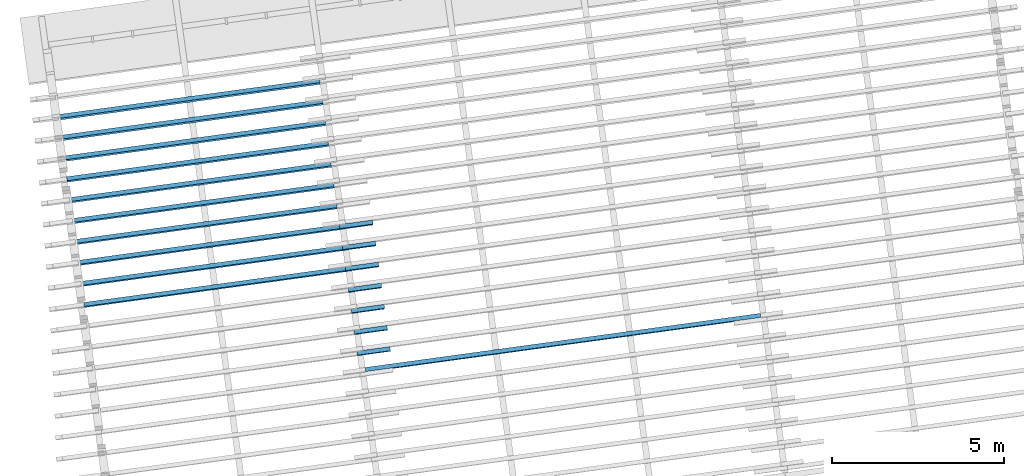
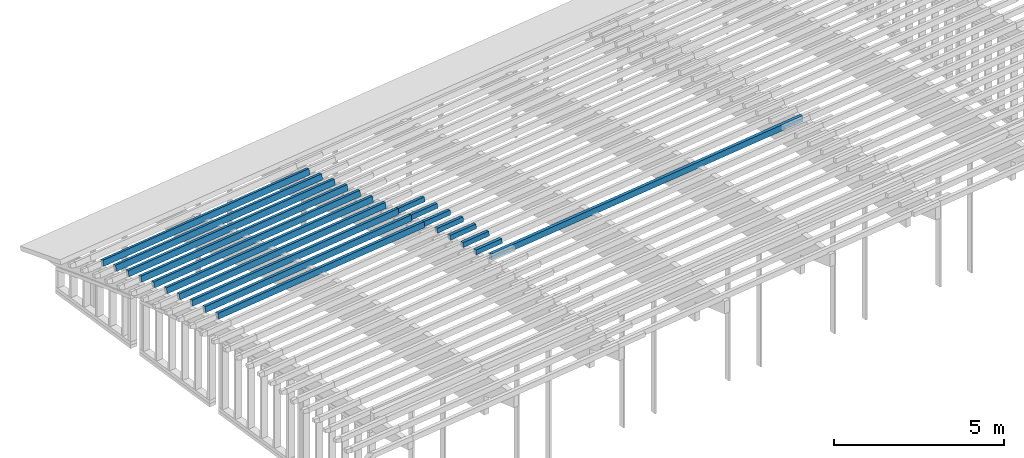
# One storey, part 8 of 18: 18 building element parts, 15 elements without a shape of their own.
"""IFC2X3 building model written with IfcOpenShell, lengths in metres."""

from ifc_helpers import new_model, entity, si_unit, converted_unit, derived_unit, money_unit, direction, frame, origin_with_axes, place, context, subcontext, project, spatial, faceted_brep, material, type_object, element, aggregate, save


model = new_model("IFC2X3")

# Units and contexts
model_context = context("Model", 3, precision=1e-05, world=origin_with_axes(), true_north=direction((0.0, 1.0)))
body_context = subcontext(model_context, "Body", "Model", "MODEL_VIEW")
ifc_project = project(units=[si_unit("LENGTHUNIT", "METRE"), si_unit("AREAUNIT", "SQUARE_METRE"), si_unit("VOLUMEUNIT", "CUBIC_METRE"), converted_unit("PLANEANGLEUNIT", "DEGREE", entity("IfcPlaneAngleMeasure", 0.0174532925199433), si_unit("PLANEANGLEUNIT", "RADIAN"), dimensions=[0, 0, 0, 0, 0, 0, 0]), money_unit("EUR"), converted_unit("TIMEUNIT", "Year", entity("IfcTimeMeasure", 31557600.0), si_unit("TIMEUNIT", "SECOND"), dimensions=[0, 0, 1, 0, 0, 0, 0]), si_unit("MASSUNIT", "GRAM", prefix="KILO"), si_unit("THERMODYNAMICTEMPERATUREUNIT", "DEGREE_CELSIUS"), si_unit("LUMINOUSINTENSITYUNIT", "LUMEN"), si_unit("ENERGYUNIT", "JOULE", prefix="MEGA"), derived_unit("THERMALCONDUCTANCEUNIT", [(si_unit("POWERUNIT", "WATT"), 1), (si_unit("LENGTHUNIT", "METRE"), -1), (si_unit("THERMODYNAMICTEMPERATUREUNIT", "KELVIN"), -1)]), derived_unit("SPECIFICHEATCAPACITYUNIT", [(si_unit("ENERGYUNIT", "JOULE"), 1), (si_unit("MASSUNIT", "GRAM", prefix="KILO"), -1), (si_unit("THERMODYNAMICTEMPERATUREUNIT", "KELVIN"), -1)]), derived_unit("MASSDENSITYUNIT", [(si_unit("MASSUNIT", "GRAM", prefix="KILO"), 1), (si_unit("VOLUMEUNIT", "CUBIC_METRE"), -1)])], contexts=[model_context])

# Site, building, storey
site_placement = place(None, origin_with_axes())
site = spatial("IfcSite", under=ifc_project, at=site_placement, Name="Gelände", CompositionType="ELEMENT")
building_placement = place(site_placement, origin_with_axes())
building = spatial("IfcBuilding", under=site, at=building_placement, Name="Gebäude", CompositionType="ELEMENT")
storey_placement = place(building_placement, frame((0.0, 0.0, 5.5), z_axis=(0.0, 0.0, 1.0), x_axis=(1.0, 0.0, 0.0)))
storey = spatial("IfcBuildingStorey", under=building, at=storey_placement, Name="OG", CompositionType="ELEMENT", Elevation=5.5)

# Beam, building element part
beam_type_1 = type_object("IfcBeamType", Name="Verschiedene Strukturen - 4 Segmente - 120 x 200 x 9849 (970+7659+1030+190)", PredefinedType="NOTDEFINED")
beam_1_placement = place(storey_placement, frame((94.4886111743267, -144.6431283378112, 4.54227047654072), z_axis=(0.0, 0.0, 1.0), x_axis=(-0.1357111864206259, 0.9907484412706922, 0.0)))
beam_1 = element("IfcBeam", 1, at=beam_1_placement, inside=storey, type_object=beam_type_1, Name="Unterzug-031")
ifc_material = material(Name="Bauholz")
building_element_part_1_placement = place(beam_1_placement, origin_with_axes())
building_element_part_1 = element("IfcBuildingElementPart", 2, at=building_element_part_1_placement, material=ifc_material, Name="Bauholz", context=body_context, shape_type="Brep", body=[
    faceted_brep([(0.05957045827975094, 0.0, -0.007166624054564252), (0.05957045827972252, 0.9700000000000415, -0.007166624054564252), (-0.05957045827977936, 0.9700000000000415, 0.007166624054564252), (-0.05957045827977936, 0.0, 0.007166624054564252), (0.04045946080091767, 0.0, -0.1660211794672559), (0.04045946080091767, 0.9700000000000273, -0.1660211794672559), (-0.07868145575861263, 0.9700000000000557, -0.1516879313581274), (-0.07868145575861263, 0.0, -0.1516879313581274)], [[[0, 1, 2, 3]], [[4, 5, 1, 0]], [[2, 1, 5, 6]], [[3, 2, 6, 7]], [[4, 0, 3, 7]], [[7, 6, 5, 4]]]),
])
aggregate(beam_1, [building_element_part_1])

beam_type_2 = type_object("IfcBeamType", Name="Verschiedene Strukturen - 4 Segmente - 120 x 200 x 9793 (970+7659+974+190)", PredefinedType="NOTDEFINED")
beam_2_placement = place(storey_placement, frame((94.40442273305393, -144.0285174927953, 4.46423359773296), z_axis=(0.0, 0.0, 1.0), x_axis=(-0.1357111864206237, 0.9907484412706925, 0.0)))
beam_2 = element("IfcBeam", 3, at=beam_2_placement, inside=storey, type_object=beam_type_2, Name="Unterzug-031")
building_element_part_2_placement = place(beam_2_placement, origin_with_axes())
building_element_part_2 = element("IfcBuildingElementPart", 4, at=building_element_part_2_placement, material=ifc_material, Name="Bauholz", context=body_context, shape_type="Brep", body=[
    faceted_brep([(0.05949214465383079, 0.0, -0.00779004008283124), (0.05949214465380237, 0.9700000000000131, -0.00779004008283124), (-0.05949214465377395, 0.9700000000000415, 0.00779004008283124), (-0.05949214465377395, 0.0, 0.00779004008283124), (0.03871870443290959, 0.0, -0.1664357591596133), (0.03871870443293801, 0.9700000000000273, -0.1664357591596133), (-0.08026558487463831, 0.9700000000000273, -0.1508556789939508), (-0.08026558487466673, 0.0, -0.1508556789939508)], [[[0, 1, 2, 3]], [[4, 5, 1, 0]], [[2, 1, 5, 6]], [[3, 2, 6, 7]], [[4, 0, 3, 7]], [[7, 6, 5, 4]]]),
])
aggregate(beam_2, [building_element_part_2])

beam_type_3 = type_object("IfcBeamType", Name="Verschiedene Strukturen - 4 Segmente - 120 x 200 x 9740 (970+7659+921+190)", PredefinedType="NOTDEFINED")
beam_3_placement = place(storey_placement, frame((94.3203410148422, -143.4146857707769, 4.380047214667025), z_axis=(0.0, 0.0, 1.0), x_axis=(-0.1357111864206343, 0.9907484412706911, 0.0)))
beam_3 = element("IfcBeam", 5, at=beam_3_placement, inside=storey, type_object=beam_type_3, Name="Unterzug-031")
building_element_part_3_placement = place(beam_3_placement, origin_with_axes())
building_element_part_3 = element("IfcBuildingElementPart", 6, at=building_element_part_3_placement, material=ifc_material, Name="Bauholz", context=body_context, shape_type="Brep", body=[
    faceted_brep([(0.05941462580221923, 0.0, -0.008360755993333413), (0.05941462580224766, 0.9699999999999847, -0.008360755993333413), (-0.05941462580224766, 0.9699999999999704, 0.008360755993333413), (-0.05941462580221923, 0.0, 0.008360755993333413), (0.03711927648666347, 0.0, -0.166799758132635), (0.03711927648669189, 0.9699999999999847, -0.166799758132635), (-0.081709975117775, 0.9699999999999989, -0.1500782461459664), (-0.08170997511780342, 0.0, -0.1500782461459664)], [[[0, 1, 2, 3]], [[4, 5, 1, 0]], [[2, 1, 5, 6]], [[3, 2, 6, 7]], [[4, 0, 3, 7]], [[7, 6, 5, 4]]]),
])
aggregate(beam_3, [building_element_part_3])

beam_type_4 = type_object("IfcBeamType", Name="Verschiedene Strukturen - 4 Segmente - 120 x 200 x 9690 (970+7659+871+190)", PredefinedType="NOTDEFINED")
beam_4_placement = place(storey_placement, frame((94.23638661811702, -142.8017835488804, 4.289462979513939), z_axis=(0.0, 0.0, 1.0), x_axis=(-0.1357111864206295, 0.9907484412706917, 0.0)))
beam_4 = element("IfcBeam", 7, at=beam_4_placement, inside=storey, type_object=beam_type_4, Name="Unterzug-031")
building_element_part_4_placement = place(beam_4_placement, origin_with_axes())
building_element_part_4 = element("IfcBuildingElementPart", 8, at=building_element_part_4_placement, material=ifc_material, Name="Bauholz", context=body_context, shape_type="Brep", body=[
    faceted_brep([(0.0593343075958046, 0.0, -0.008912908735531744), (0.0593343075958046, 0.9699999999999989, -0.008912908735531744), (-0.0593343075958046, 0.9699999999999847, 0.008912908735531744), (-0.0593343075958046, 0.0, 0.008912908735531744), (0.035566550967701, 0.0, -0.1671377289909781), (0.03556655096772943, 0.9699999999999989, -0.1671377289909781), (-0.08310206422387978, 0.9699999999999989, -0.1493119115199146), (-0.08310206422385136, 0.0, -0.1493119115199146)], [[[0, 1, 2, 3]], [[4, 5, 1, 0]], [[2, 1, 5, 6]], [[3, 2, 6, 7]], [[4, 0, 3, 7]], [[7, 6, 5, 4]]]),
])
aggregate(beam_4, [building_element_part_4])

# Beam, building element parts
beam_type_5 = type_object("IfcBeamType", Name="Verschiedene Strukturen - 4 Segmente - 120 x 200 x 9644 (970+7659+825+190)", PredefinedType="NOTDEFINED")
beam_5_placement = place(storey_placement, frame((94.15255742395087, -142.1897953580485, 4.19267556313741), z_axis=(0.0, 0.0, 1.0), x_axis=(-0.1357111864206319, 0.9907484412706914, 0.0)))
beam_5 = element("IfcBeam", 9, at=beam_5_placement, inside=storey, type_object=beam_type_5, Name="Unterzug-031")
building_element_part_5_placement = place(beam_5_placement, origin_with_axes())
building_element_part_5 = element("IfcBuildingElementPart", 10, at=building_element_part_5_placement, material=ifc_material, Name="Bauholz", context=body_context, shape_type="Brep", body=[
    faceted_brep([(0.0592331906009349, 8.629122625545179, -0.009561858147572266), (0.05923345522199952, 4.852805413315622, -0.00956185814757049), (0.03373450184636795, 4.852805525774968, -0.1675195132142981), (0.03373448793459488, 4.732805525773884, -0.1675195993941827), (0.05923292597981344, 4.732805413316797, -0.00956185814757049), (0.05923319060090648, 0.9699999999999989, -0.009561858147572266), (0.02736033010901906, 0.9699999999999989, -0.207005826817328), (0.02736033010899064, 8.629122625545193, -0.207005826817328), (-0.0592331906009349, 8.629122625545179, 0.009561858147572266), (-0.05923292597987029, 4.852803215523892, 0.009561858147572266), (-0.05923345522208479, 4.732803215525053, 0.009561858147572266), (-0.05923319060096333, 0.9700000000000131, 0.009561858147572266), (0.03297535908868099, 4.85280552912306, -0.1673925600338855), (0.03297482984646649, 4.732805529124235, -0.1673925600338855), (-0.09110605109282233, 0.9699999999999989, -0.1878821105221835), (-0.09110605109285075, 8.629122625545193, -0.1878821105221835), (-0.08473173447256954, 4.732803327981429, -0.1483948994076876), (-0.08473172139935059, 4.852803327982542, -0.1483948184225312), (-0.0844619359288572, 4.85280332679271, -0.1484371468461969), (-0.08446246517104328, 4.732803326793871, -0.1484371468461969)], [[[0, 1, 2, 3, 4, 5, 6, 7]], [[5, 4, 1, 0, 8, 9, 10, 11]], [[12, 2, 1]], [[13, 3, 2, 12]], [[13, 4, 3]], [[11, 14, 6, 5]], [[7, 6, 14, 15]], [[7, 15, 8, 0]], [[12, 1, 4, 13]], [[14, 11, 10, 16, 17, 9, 8, 15]], [[9, 18, 19, 10]], [[19, 16, 10]], [[17, 16, 19, 18]], [[18, 9, 17]]]),
])
building_element_part_6_placement = place(beam_5_placement, origin_with_axes())
building_element_part_6 = element("IfcBuildingElementPart", 11, at=building_element_part_6_placement, material=ifc_material, Name="Bauholz", context=body_context, shape_type="Brep", body=[
    faceted_brep([(0.0592331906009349, 0.0, -0.009561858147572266), (0.05923319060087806, 0.9699999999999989, -0.009561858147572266), (-0.05923319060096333, 0.9700000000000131, 0.009561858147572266), (-0.05923319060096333, 0.0, 0.009561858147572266), (0.03373490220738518, 0.0, -0.1675170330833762), (0.03373490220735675, 0.9699999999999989, -0.1675170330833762), (-0.08473147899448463, 0.9699999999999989, -0.1483933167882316), (-0.08473147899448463, 0.0, -0.1483933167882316)], [[[0, 1, 2, 3]], [[4, 5, 1, 0]], [[2, 1, 5, 6]], [[3, 2, 6, 7]], [[4, 0, 3, 7]], [[7, 6, 5, 4]]]),
])
aggregate(beam_5, [building_element_part_5, building_element_part_6])

beam_type_6 = type_object("IfcBeamType", Name="Verschiedene Strukturen - 4 Segmente - 120 x 200 x 9601 (970+7659+782+190)", PredefinedType="NOTDEFINED")
beam_6_placement = place(storey_placement, frame((94.06886552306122, -141.5788094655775, 4.089610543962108), z_axis=(0.0, 0.0, 1.0), x_axis=(-0.1357111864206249, 0.9907484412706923, 0.0)))
beam_6 = element("IfcBeam", 12, at=beam_6_placement, inside=storey, type_object=beam_type_6, Name="Unterzug-031")
building_element_part_7_placement = place(beam_6_placement, origin_with_axes())
building_element_part_7 = element("IfcBuildingElementPart", 13, at=building_element_part_7_placement, material=ifc_material, Name="Bauholz", context=body_context, shape_type="Brep", body=[
    faceted_brep([(0.05913232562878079, 8.629122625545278, -0.01016700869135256), (0.05913259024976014, 4.852805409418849, -0.01016700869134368), (0.03201988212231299, 4.852805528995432, -0.1678556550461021), (0.03201986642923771, 4.732805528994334, -0.1678557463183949), (0.05913206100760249, 4.73280540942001, -0.01016700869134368), (0.05913232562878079, 0.9699999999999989, -0.01016700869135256), (0.02524229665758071, 0.9699999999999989, -0.2072747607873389), (0.02524229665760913, 8.629122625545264, -0.2072747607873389), (-0.05913232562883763, 8.629122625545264, 0.01016700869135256), (-0.0591320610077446, 4.852803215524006, 0.01016700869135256), (-0.05913259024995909, 4.732803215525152, 0.01016700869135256), (-0.05913232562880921, 0.9700000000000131, 0.01016700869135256), (0.03126714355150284, 4.852805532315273, -0.167721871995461), (0.03126661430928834, 4.732805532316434, -0.167721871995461), (-0.09302235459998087, 0.9699999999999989, -0.1869407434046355), (-0.09302235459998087, 8.62912262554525, -0.1869407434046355), (-0.08624463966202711, 4.732803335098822, -0.1475208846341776), (-0.08624462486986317, 4.852803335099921, -0.1475207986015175), (-0.08595098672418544, 4.852803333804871, -0.1475699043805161), (-0.08595151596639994, 4.732803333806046, -0.1475699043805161)], [[[0, 1, 2, 3, 4, 5, 6, 7]], [[5, 4, 1, 0, 8, 9, 10, 11]], [[12, 2, 1]], [[13, 3, 2, 12]], [[13, 4, 3]], [[11, 14, 6, 5]], [[7, 6, 14, 15]], [[7, 15, 8, 0]], [[12, 1, 4, 13]], [[14, 11, 10, 16, 17, 9, 8, 15]], [[9, 18, 19, 10]], [[19, 16, 10]], [[17, 16, 19, 18]], [[18, 9, 17]]]),
])
building_element_part_8_placement = place(beam_6_placement, origin_with_axes())
building_element_part_8 = element("IfcBuildingElementPart", 14, at=building_element_part_8_placement, material=ifc_material, Name="Bauholz", context=body_context, shape_type="Brep", body=[
    faceted_brep([(0.05913232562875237, 0.0, -0.01016700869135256), (0.05913232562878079, 0.9699999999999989, -0.01016700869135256), (-0.05913232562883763, 0.9699999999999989, 0.01016700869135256), (-0.05913232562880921, 0.0, 0.01016700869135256), (0.03202030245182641, 0.0, -0.1678532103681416), (0.03202030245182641, 0.9699999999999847, -0.1678532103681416), (-0.08624434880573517, 0.9699999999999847, -0.1475191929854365), (-0.0862443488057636, 0.0, -0.1475191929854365)], [[[0, 1, 2, 3]], [[4, 5, 1, 0]], [[2, 1, 5, 6]], [[3, 2, 6, 7]], [[4, 0, 3, 7]], [[7, 6, 5, 4]]]),
])
aggregate(beam_6, [building_element_part_7, building_element_part_8])

beam_type_7 = type_object("IfcBeamType", Name="Verschiedene Strukturen - 4 Segmente - 120 x 200 x 9561 (970+7659+742+190)", PredefinedType="NOTDEFINED")
beam_7_placement = place(storey_placement, frame((93.98532227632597, -140.9689088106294, 3.980241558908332), z_axis=(0.0, 0.0, 1.0), x_axis=(-0.1357111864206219, 0.9907484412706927, 0.0)))
beam_7 = element("IfcBeam", 15, at=beam_7_placement, inside=storey, type_object=beam_type_7, Name="Unterzug-031")
building_element_part_9_placement = place(beam_7_placement, origin_with_axes())
building_element_part_9 = element("IfcBuildingElementPart", 16, at=building_element_part_9_placement, material=ifc_material, Name="Bauholz", context=body_context, shape_type="Brep", body=[
    faceted_brep([(0.05902139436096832, 0.0, -0.01079235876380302), (0.05902139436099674, 0.9700000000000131, -0.01079235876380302), (-0.05902139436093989, 0.9700000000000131, 0.01079235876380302), (-0.05902139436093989, 0.0, 0.01079235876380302), (0.03024177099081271, 0.0, -0.1681827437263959), (0.03024177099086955, 0.9700000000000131, -0.1681827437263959), (-0.0878010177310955, 0.9700000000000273, -0.146598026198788), (-0.0878010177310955, 0.0, -0.146598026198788)], [[[0, 1, 2, 3]], [[4, 5, 1, 0]], [[2, 1, 5, 6]], [[3, 2, 6, 7]], [[4, 0, 3, 7]], [[7, 6, 5, 4]]]),
])
building_element_part_10_placement = place(beam_7_placement, origin_with_axes())
building_element_part_10 = element("IfcBuildingElementPart", 17, at=building_element_part_10_placement, material=ifc_material, Name="Bauholz", context=body_context, shape_type="Brep", body=[
    faceted_brep([(0.05902139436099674, 8.629122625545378, -0.01079235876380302), (0.05902165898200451, 4.852805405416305, -0.01079235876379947), (0.03024141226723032, 4.852805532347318, -0.1681847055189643), (0.03024139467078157, 4.732805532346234, -0.1681848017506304), (0.05902112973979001, 4.732805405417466, -0.01079235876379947), (0.05902139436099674, 0.9700000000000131, -0.01079235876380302), (0.02304686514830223, 0.9700000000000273, -0.2075303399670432), (0.02304686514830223, 8.629122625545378, -0.2075303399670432), (-0.05902139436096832, 8.629122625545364, 0.01079235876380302), (-0.0590211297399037, 4.852803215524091, 0.01079235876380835), (-0.0590216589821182, 4.732803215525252, 0.01079235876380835), (-0.05902139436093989, 0.9700000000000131, 0.01079235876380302), (0.02957910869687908, 4.852805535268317, -0.1680601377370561), (0.029578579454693, 4.732805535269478, -0.1680601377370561), (-0.09499592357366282, 0.9700000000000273, -0.1859456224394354), (-0.09499592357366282, 8.629122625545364, -0.1859456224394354), (-0.08780138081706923, 4.732803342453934, -0.1466000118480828), (-0.08780136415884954, 4.852803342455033, -0.1465999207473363), (-0.08751582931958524, 4.852803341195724, -0.1466506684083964), (-0.08751635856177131, 4.732803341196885, -0.1466506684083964)], [[[0, 1, 2, 3, 4, 5, 6, 7]], [[5, 4, 1, 0, 8, 9, 10, 11]], [[12, 2, 1]], [[13, 3, 2, 12]], [[13, 4, 3]], [[11, 14, 6, 5]], [[7, 6, 14, 15]], [[7, 15, 8, 0]], [[12, 1, 4, 13]], [[14, 11, 10, 16, 17, 9, 8, 15]], [[9, 18, 19, 10]], [[19, 16, 10]], [[17, 16, 19, 18]], [[18, 9, 17]]]),
])
aggregate(beam_7, [building_element_part_9, building_element_part_10])

# Beam, building element part
beam_type_8 = type_object("IfcBeamType", Name="Verschiedene Strukturen - 4 Segmente - 120 x 200 x 9525 (970+7659+706+190)", PredefinedType="NOTDEFINED")
beam_8_placement = place(storey_placement, frame((93.90193320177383, -140.360133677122, 3.864643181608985), z_axis=(0.0, 0.0, 1.0), x_axis=(-0.1357111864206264, 0.9907484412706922, 0.0)))
beam_8 = element("IfcBeam", 18, at=beam_8_placement, inside=storey, type_object=beam_type_8, Name="Unterzug-031")
building_element_part_11_placement = place(beam_8_placement, origin_with_axes())
building_element_part_11 = element("IfcBuildingElementPart", 19, at=building_element_part_11_placement, material=ifc_material, Name="Bauholz", context=body_context, shape_type="Brep", body=[
    faceted_brep([(0.05890385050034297, 8.629122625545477, -0.01141649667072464), (0.05890411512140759, 4.852805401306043, -0.01141649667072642), (0.02845960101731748, 4.852805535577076, -0.1684947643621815), (0.02845958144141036, 4.732805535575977, -0.168494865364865), (0.05890358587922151, 4.732805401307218, -0.01141649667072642), (0.05890385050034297, 0.9699999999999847, -0.01141649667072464), (0.02084886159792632, 0.9699999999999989, -0.2077626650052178), (0.02084886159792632, 8.629122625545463, -0.2077626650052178), (-0.05890385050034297, 8.629122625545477, 0.01141649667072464), (-0.05890358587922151, 4.852803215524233, 0.01141649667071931), (-0.05890385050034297, 4.792803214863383, 0.01141649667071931), (-0.05890385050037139, 0.9699999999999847, 0.01141649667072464), (0.02793298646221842, 4.852805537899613, -0.168390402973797), (0.02793245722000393, 4.732805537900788, -0.168390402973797), (-0.09695883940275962, 0.9699999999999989, -0.1849296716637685), (-0.09695883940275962, 8.629122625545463, -0.1849296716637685), (-0.05901647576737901, 4.732803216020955, 0.01083540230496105), (-0.08927955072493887, 4.732803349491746, -0.1456758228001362), (-0.08927902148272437, 4.852803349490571, -0.1456758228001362)], [[[0, 1, 2, 3, 4, 5, 6, 7]], [[5, 4, 1, 0, 8, 9, 10, 11]], [[12, 2, 1]], [[13, 3, 2, 12]], [[13, 4, 3]], [[14, 6, 5, 11]], [[15, 7, 6, 14]], [[7, 15, 8, 0]], [[12, 1, 4, 13]], [[16, 17, 18, 9, 8, 15, 14, 11, 10]], [[18, 17, 16, 10, 9]]]),
])
aggregate(beam_8, [building_element_part_11])

beam_type_9 = type_object("IfcBeamType", Name="Verschiedene Strukturen - 4 Segmente - 120 x 200 x 9492 (970+7659+673+190)", PredefinedType="NOTDEFINED")
beam_9_placement = place(storey_placement, frame((93.81870340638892, -139.7525213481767, 3.742971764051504), z_axis=(0.0, 0.0, 1.0), x_axis=(-0.1357111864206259, 0.9907484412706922, 0.0)))
beam_9 = element("IfcBeam", 20, at=beam_9_placement, inside=storey, type_object=beam_type_9, Name="Unterzug-031")
building_element_part_12_placement = place(beam_9_placement, origin_with_axes())
building_element_part_12 = element("IfcBuildingElementPart", 21, at=building_element_part_12_placement, material=ifc_material, Name="Bauholz", context=body_context, shape_type="Brep", body=[
    faceted_brep([(0.05877971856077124, 8.629122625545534, -0.01203929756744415), (0.05877998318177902, 4.852805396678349, -0.01203929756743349), (0.02667467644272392, 4.852805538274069, -0.168786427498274), (0.02667465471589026, 4.732805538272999, -0.1687865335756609), (0.05877945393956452, 4.732805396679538, -0.01203929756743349), (0.05877971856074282, 0.9700000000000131, -0.01203929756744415), (0.01864872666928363, 0.9700000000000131, -0.2079716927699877), (0.01864872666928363, 8.629122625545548, -0.2079716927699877), (-0.05877971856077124, 8.629122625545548, 0.01203929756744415), (-0.05877945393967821, 4.852803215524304, 0.01203929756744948), (-0.0587799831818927, 4.732803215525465, 0.01203929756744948), (-0.05877971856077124, 0.9700000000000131, 0.01203929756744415), (0.02617685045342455, 4.852805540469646, -0.1686823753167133), (0.02617632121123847, 4.732805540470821, -0.1686823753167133), (-0.09891071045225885, 0.9699999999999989, -0.1838930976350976), (-0.09891071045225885, 8.629122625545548, -0.1838930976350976), (-0.09088517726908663, 4.732803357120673, -0.1447098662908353), (-0.09088515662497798, 4.852803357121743, -0.1447097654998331), (-0.09068171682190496, 4.852803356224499, -0.144750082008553), (-0.09068224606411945, 4.732803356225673, -0.144750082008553)], [[[0, 1, 2, 3, 4, 5, 6, 7]], [[5, 4, 1, 0, 8, 9, 10, 11]], [[12, 2, 1]], [[13, 3, 2, 12]], [[13, 4, 3]], [[11, 14, 6, 5]], [[7, 6, 14, 15]], [[7, 15, 8, 0]], [[12, 1, 4, 13]], [[14, 11, 10, 16, 17, 9, 8, 15]], [[9, 18, 19, 10]], [[19, 16, 10]], [[17, 16, 19, 18]], [[18, 9, 17]]]),
])
aggregate(beam_9, [building_element_part_12])

beam_type_10 = type_object("IfcBeamType", Name="Verschiedene Strukturen - 4 Segmente - 120 x 200 x 9437 (970+7659+618+190)", PredefinedType="NOTDEFINED")
beam_10_placement = place(storey_placement, frame((93.65277518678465, -138.5411759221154, 3.480744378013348), z_axis=(0.0, 0.0, 1.0), x_axis=(-0.1357111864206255, 0.9907484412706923, 0.0)))
beam_10 = element("IfcBeam", 22, at=beam_10_placement, inside=storey, type_object=beam_type_10, Name="Unterzug-031")
building_element_part_13_placement = place(beam_10_placement, origin_with_axes())
building_element_part_13 = element("IfcBuildingElementPart", 23, at=building_element_part_13_placement, material=ifc_material, Name="Bauholz", context=body_context, shape_type="Brep", body=[
    faceted_brep([(0.05851170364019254, 8.629122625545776, -0.01328083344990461), (0.05851196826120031, 4.852805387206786, -0.01328083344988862), (0.02309603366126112, 4.852805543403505, -0.1693125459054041), (0.02309600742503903, 4.732805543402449, -0.1693126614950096), (0.05851143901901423, 4.732805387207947, -0.01328083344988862), (0.05851170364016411, 0.9699999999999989, -0.01328083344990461), (0.01424225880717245, 0.9700000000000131, -0.2083198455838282), (0.01424225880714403, 8.629122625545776, -0.2083198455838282), (-0.05851170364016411, 8.629122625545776, 0.01328083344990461), (-0.05851143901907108, 4.852803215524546, 0.01328083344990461), (-0.05851196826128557, 4.732803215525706, 0.01328083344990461), (-0.05851170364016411, 0.9700000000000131, 0.01328083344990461), (0.02280931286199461, 4.852805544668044, -0.1692466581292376), (0.02280878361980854, 4.732805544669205, -0.1692466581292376), (-0.1027811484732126, 0.9700000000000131, -0.1817581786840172), (-0.1027811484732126, 8.629122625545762, -0.1817581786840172), (-0.09392822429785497, 4.732803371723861, -0.1427546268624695), (-0.09392819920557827, 4.852803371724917, -0.1427545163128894), (-0.09357776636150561, 4.852803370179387, -0.1428313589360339), (-0.09357829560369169, 4.732803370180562, -0.1428313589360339)], [[[0, 1, 2, 3, 4, 5, 6, 7]], [[5, 4, 1, 0, 8, 9, 10, 11]], [[12, 2, 1]], [[13, 3, 2, 12]], [[13, 4, 3]], [[11, 14, 6, 5]], [[7, 6, 14, 15]], [[7, 15, 8, 0]], [[12, 1, 4, 13]], [[14, 11, 10, 16, 17, 9, 8, 15]], [[9, 18, 19, 10]], [[19, 16, 10]], [[17, 16, 19, 18]], [[18, 9, 17]]]),
])
aggregate(beam_10, [building_element_part_13])

beam_type_11 = type_object("IfcBeamType", Name="Verschiedene Strukturen - 4 Segmente - 120 x 200 x 9414 (970+7659+595+190)", PredefinedType="NOTDEFINED")
beam_11_placement = place(storey_placement, frame((93.57008836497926, -137.9375275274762, 3.340410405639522), z_axis=(0.0, 0.0, 1.0), x_axis=(-0.1357111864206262, 0.9907484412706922, 0.0)))
beam_11 = element("IfcBeam", 24, at=beam_11_placement, inside=storey, type_object=beam_type_11, Name="Unterzug-031")
building_element_part_14_placement = place(beam_11_placement, origin_with_axes())
building_element_part_14 = element("IfcBuildingElementPart", 25, at=building_element_part_14_placement, material=ifc_material, Name="Bauholz", context=body_context, shape_type="Brep", body=[
    faceted_brep([(0.05836784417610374, 8.629105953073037, -0.01389945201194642), (0.05836810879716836, 4.852805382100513, -0.01389945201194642), (0.02130257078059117, 4.852805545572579, -0.1695473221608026), (0.02130254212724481, 4.732805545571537, -0.1695474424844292), (0.05836757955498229, 4.732805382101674, -0.01389945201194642), (0.05836784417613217, 0.9699999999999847, -0.01389945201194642), (0.01203633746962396, 0.9699999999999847, -0.2084589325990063), (0.01203633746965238, 8.629105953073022, -0.2084589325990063), (-0.05836784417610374, 8.629105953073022, 0.01389945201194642), (-0.05836757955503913, 4.852803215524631, 0.01389945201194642), (-0.05836810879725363, 4.732803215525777, 0.01389945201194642), (-0.05836784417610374, 0.9699999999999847, 0.01389945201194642), (0.02110557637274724, 4.852805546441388, -0.1694999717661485), (0.02110504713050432, 4.732805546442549, -0.1694999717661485), (-0.1046993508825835, 0.9699999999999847, -0.1806600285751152), (-0.104699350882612, 8.629105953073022, -0.1806600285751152), (-0.09543422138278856, 4.732803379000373, -0.1417530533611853), (-0.09543419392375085, 4.852803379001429, -0.1417529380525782), (-0.09499536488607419, 4.852803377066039, -0.1418537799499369), (-0.09499589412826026, 4.732803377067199, -0.1418537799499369)], [[[0, 1, 2, 3, 4, 5, 6, 7]], [[5, 4, 1, 0, 8, 9, 10, 11]], [[12, 2, 1]], [[13, 3, 2, 12]], [[13, 4, 3]], [[11, 14, 6, 5]], [[7, 6, 14, 15]], [[7, 15, 8, 0]], [[12, 1, 4, 13]], [[14, 11, 10, 16, 17, 9, 8, 15]], [[9, 18, 19, 10]], [[19, 16, 10]], [[17, 16, 19, 18]], [[18, 9, 17]]]),
])
aggregate(beam_11, [building_element_part_14])

beam_type_12 = type_object("IfcBeamType", Name="Verschiedene Strukturen - 4 Segmente - 120 x 200 x 9394 (970+7659+575+190)", PredefinedType="NOTDEFINED")
beam_12_placement = place(storey_placement, frame((93.48759860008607, -137.3353177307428, 3.193916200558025), z_axis=(0.0, 0.0, 1.0), x_axis=(-0.1357111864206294, 0.9907484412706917, 0.0)))
beam_12 = element("IfcBeam", 26, at=beam_12_placement, inside=storey, type_object=beam_type_12, Name="Unterzug-031")
building_element_part_15_placement = place(beam_12_placement, origin_with_axes())
building_element_part_15 = element("IfcBuildingElementPart", 27, at=building_element_part_15_placement, material=ifc_material, Name="Bauholz", context=body_context, shape_type="Brep", body=[
    faceted_brep([(0.05821747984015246, 8.629105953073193, -0.01451637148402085), (0.0582177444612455, 4.852805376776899, -0.01451637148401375), (0.01950712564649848, 4.852805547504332, -0.1697631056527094), (0.01950709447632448, 4.732805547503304, -0.1697632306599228), (0.058217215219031, 4.73280537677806, -0.01451637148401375), (0.05821747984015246, 0.9700000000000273, -0.01451637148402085), (0.009829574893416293, 0.9700000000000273, -0.2085746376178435), (0.009829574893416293, 8.629105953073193, -0.2085746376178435), (-0.05821747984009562, 8.629105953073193, 0.01451637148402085), (-0.05821721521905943, 4.852803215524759, 0.01451637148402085), (-0.05821747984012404, 4.792803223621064, 0.01451637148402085), (-0.05821747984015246, 0.9700000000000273, 0.01451637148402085), (0.01918661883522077, 4.8528055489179, -0.1696826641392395), (0.01918608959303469, 4.73280554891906, -0.1696826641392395), (-0.1066053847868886, 0.9700000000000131, -0.1795418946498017), (-0.1066053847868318, 8.629105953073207, -0.1795418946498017), (-0.05834445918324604, 4.732803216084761, 0.01400712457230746), (-0.09685333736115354, 4.73280338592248, -0.1407541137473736), (-0.09685280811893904, 4.85280338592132, -0.1407541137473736)], [[[0, 1, 2, 3, 4, 5, 6, 7]], [[5, 4, 1, 0, 8, 9, 10, 11]], [[12, 2, 1]], [[13, 3, 2, 12]], [[13, 4, 3]], [[14, 6, 5, 11]], [[15, 7, 6, 14]], [[7, 15, 8, 0]], [[12, 1, 4, 13]], [[16, 17, 18, 9, 8, 15, 14, 11, 10]], [[18, 17, 16, 10, 9]]]),
])
aggregate(beam_12, [building_element_part_15])

beam_type_13 = type_object("IfcBeamType", Name="Verschiedene Strukturen - 4 Segmente - 120 x 200 x 9378 (970+7659+559+190)", PredefinedType="NOTDEFINED")
beam_13_placement = place(storey_placement, frame((93.40531435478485, -136.7346083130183, 3.04127648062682), z_axis=(0.0, 0.0, 1.0), x_axis=(-0.1357111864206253, 0.9907484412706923, 0.0)))
beam_13 = element("IfcBeam", 28, at=beam_13_placement, inside=storey, type_object=beam_type_13, Name="Unterzug-031")
building_element_part_16_placement = place(beam_13_placement, origin_with_axes())
building_element_part_16 = element("IfcBuildingElementPart", 29, at=building_element_part_16_placement, material=ifc_material, Name="Bauholz", context=body_context, shape_type="Brep", body=[
    faceted_brep([(0.05806055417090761, 8.629105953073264, -0.01513182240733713), (0.05805849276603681, 4.8528053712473, -0.01514071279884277), (0.0177067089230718, 4.852805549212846, -0.1699688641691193), (0.0177066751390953, 4.732805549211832, -0.169968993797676), (0.05805796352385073, 4.73280537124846, -0.01514071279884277), (0.05806055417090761, 0.9699999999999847, -0.01513182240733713), (0.007621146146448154, 0.9699999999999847, -0.2086670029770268), (0.007621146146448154, 8.629105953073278, -0.2086670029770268), (-0.05806055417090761, 8.629105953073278, 0.01513182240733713), (-0.05806028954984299, 4.852803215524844, 0.01513182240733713), (-0.05806055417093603, 4.792803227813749, 0.01513182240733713), (-0.05806055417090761, 0.9699999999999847, 0.01513182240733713), (0.01747848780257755, 4.852805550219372, -0.1699091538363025), (0.01747795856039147, 4.732805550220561, -0.1699091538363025), (-0.1084999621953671, 0.9699999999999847, -0.1784033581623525), (-0.1084999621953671, 8.629105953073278, -0.1784033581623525), (-0.05826208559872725, 4.732803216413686, 0.01435854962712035), (-0.09836425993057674, 4.73280339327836, -0.1397151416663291), (-0.09836373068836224, 4.852803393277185, -0.1397151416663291)], [[[0, 1, 2, 3, 4, 5, 6, 7]], [[5, 4, 1, 0, 8, 9, 10, 11]], [[12, 2, 1]], [[13, 3, 2, 12]], [[13, 4, 3]], [[14, 6, 5, 11]], [[15, 7, 6, 14]], [[7, 15, 8, 0]], [[12, 1, 4, 13]], [[16, 17, 18, 9, 8, 15, 14, 11, 10]], [[18, 17, 16, 10, 9]]]),
])
aggregate(beam_13, [building_element_part_16])

beam_type_14 = type_object("IfcBeamType", Name="Verschiedene Strukturen - 4 Segmente - 120 x 200 x 9463 (970+7659+644+190)", PredefinedType="NOTDEFINED")
beam_14_placement = place(storey_placement, frame((93.73565060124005, -139.1462011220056, 3.614903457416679), z_axis=(0.0, 0.0, 1.0), x_axis=(-0.1357111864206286, 0.9907484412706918, 0.0)))
beam_14 = element("IfcBeam", 30, at=beam_14_placement, inside=storey, type_object=beam_type_14, Name="Unterzug-031")
building_element_part_17_placement = place(beam_14_placement, origin_with_axes())
building_element_part_17 = element("IfcBuildingElementPart", 31, at=building_element_part_17_placement, material=ifc_material, Name="Bauholz", context=body_context, shape_type="Brep", body=[
    faceted_brep([(0.05864897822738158, 8.629122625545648, -0.0126608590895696), (0.05864924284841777, 4.852805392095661, -0.0126608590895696), (0.02488652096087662, 4.852805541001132, -0.1690589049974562), (0.02488649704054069, 4.73280554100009, -0.1690590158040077), (0.05864871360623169, 4.732805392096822, -0.0126608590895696), (0.05864897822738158, 0.9700000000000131, -0.0126608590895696), (0.01644611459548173, 0.9700000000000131, -0.2081574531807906), (0.01644611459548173, 8.629122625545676, -0.2081574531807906), (-0.05864897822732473, 8.629122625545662, 0.0126608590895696), (-0.05864871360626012, 4.852803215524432, 0.0126608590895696), (-0.05864924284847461, 4.732803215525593, 0.0126608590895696), (-0.05864897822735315, 0.9700000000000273, 0.0126608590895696), (0.02451012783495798, 4.852805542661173, -0.1689763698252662), (0.02450959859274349, 4.732805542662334, -0.1689763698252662), (-0.100851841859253, 0.9700000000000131, -0.1828357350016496), (-0.100851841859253, 8.629122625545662, -0.1828357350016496), (-0.09241200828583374, 4.732803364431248, -0.1437398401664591), (-0.09241198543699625, 4.852803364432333, -0.1437397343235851), (-0.09218100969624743, 4.852803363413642, -0.1437880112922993), (-0.09218153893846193, 4.732803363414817, -0.1437880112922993)], [[[0, 1, 2, 3, 4, 5, 6, 7]], [[5, 4, 1, 0, 8, 9, 10, 11]], [[12, 2, 1]], [[13, 3, 2, 12]], [[13, 4, 3]], [[11, 14, 6, 5]], [[7, 6, 14, 15]], [[7, 15, 8, 0]], [[12, 1, 4, 13]], [[14, 11, 10, 16, 17, 9, 8, 15]], [[9, 18, 19, 10]], [[19, 16, 10]], [[17, 16, 19, 18]], [[18, 9, 17]]]),
])
aggregate(beam_14, [building_element_part_17])

beam_type_15 = type_object("IfcBeamType", Name="Verschiedene Strukturen - 3 Segmente - 120 x 200 x 12890 (660+11570+660)", PredefinedType="NOTDEFINED")
beam_15_placement = place(storey_placement, frame((93.11820253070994, -145.3373725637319, 4.600733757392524), z_axis=(0.0, 0.0, 1.0), x_axis=(0.1357111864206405, -0.9907484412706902, 0.0)))
beam_15 = element("IfcBeam", 32, at=beam_15_placement, inside=storey, type_object=beam_type_15, Name="Unterzug-031")
building_element_part_18_placement = place(beam_15_placement, origin_with_axes())
building_element_part_18 = element("IfcBuildingElementPart", 33, at=building_element_part_18_placement, material=ifc_material, Name="Bauholz", context=body_context, shape_type="Brep", body=[
    faceted_brep([(-0.05962490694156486, 12.22957971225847, -0.006698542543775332), (0.05961206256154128, 12.22957971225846, 0.006697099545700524), (0.07716127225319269, 12.22957971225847, -0.1522616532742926), (0.07747929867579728, 12.22957971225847, -0.1522265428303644), (0.08195338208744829, 12.22957971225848, -0.192051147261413), (-0.03729643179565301, 12.22957971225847, -0.2054482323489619), (0.05962490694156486, 11.43763277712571, 0.006698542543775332), (0.05961206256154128, 11.43763277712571, 0.006697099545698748), (-0.05962490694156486, 0.6599999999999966, -0.006698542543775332), (0.05961206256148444, 0.6599999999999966, 0.006697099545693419), (0.05961206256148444, 1.45194693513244, 0.006697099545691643), (0.05962490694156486, 1.45194693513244, 0.006698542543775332), (0.07716127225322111, 11.43763277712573, -0.1522616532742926), (0.07747929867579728, 11.43763277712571, -0.1522265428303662), (0.07747929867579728, 1.45194693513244, -0.1522265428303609), (0.07747929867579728, 0.6599999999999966, -0.1522265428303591), (0.08195338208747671, 0.6599999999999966, -0.192051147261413), (-0.03729643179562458, 0.6600000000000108, -0.2054482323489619), (0.07716127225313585, 0.6600000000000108, -0.1522616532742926), (0.07716127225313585, 1.45194693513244, -0.1522616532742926)], [[[0, 1, 2, 3, 4, 5]], [[6, 7, 1, 0, 8, 9, 10, 11]], [[12, 2, 1, 7]], [[12, 13, 3, 2]], [[3, 13, 6, 11, 14, 15, 16, 4]], [[4, 16, 17, 5]], [[5, 17, 8, 0]], [[7, 6, 13, 12]], [[16, 15, 18, 9, 8, 17]], [[18, 19, 10, 9]], [[10, 19, 14, 11]], [[19, 18, 15, 14]]]),
])
aggregate(beam_15, [building_element_part_18])

save(model, "model.ifc")
